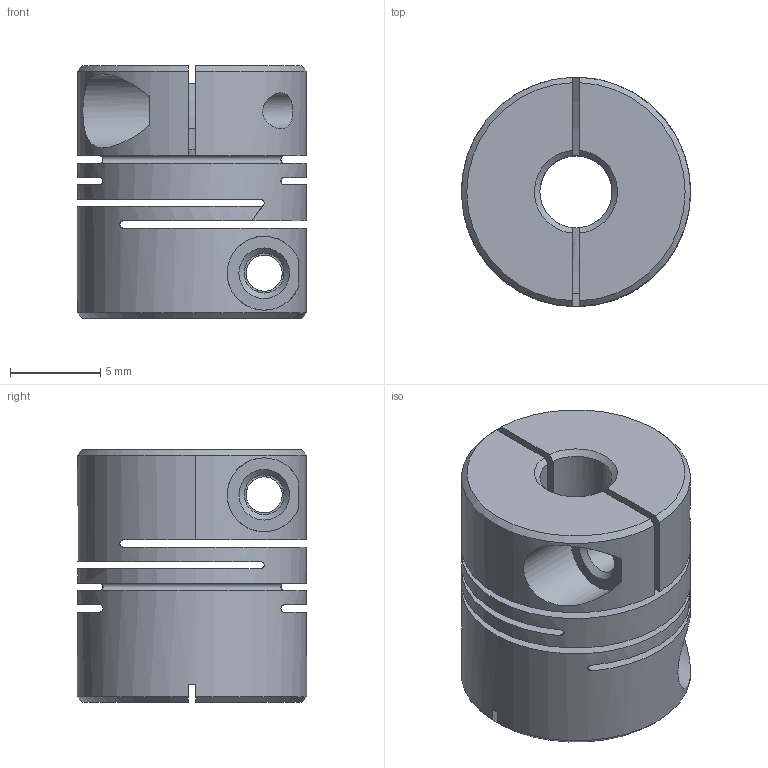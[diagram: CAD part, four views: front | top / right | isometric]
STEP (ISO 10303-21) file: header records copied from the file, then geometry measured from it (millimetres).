
FILE_DESCRIPTION( ( 'Unknown' ), '1' );
FILE_NAME( 'D:/3D/目敲傅/SRBM Type/C Type/SRBM-12C.stp', 'Unknown', ( 'Unknown' ), ( 'Unknown' ), 'XStep 1.0', 'Unknown', ' ' );
FILE_SCHEMA( ( 'CONFIG_CONTROL_DESIGN' ) );
Length unit declared in the file: millimetre
Products named in the file (1): 1
Bounding box: 12.7 x 12.7 x 14 mm (x, y, z)
Volume: 1284.6 mm3; surface area: 1854 mm2
Topology: 1 solids, 1 shells, 57 faces, 162 edges, 109 vertices
Faces by surface type: plane 24, cylinder 23, cone 10
Full cylindrical faces by diameter (mm): 2 x2, 2.2 x4, 4 x2, 5 x3, 12.7 x1
Entity records: 1966 total; most frequent: CARTESIAN_POINT 589, DIRECTION 266, ORIENTED_EDGE 260, EDGE_CURVE 130, AXIS2_PLACEMENT_3D 113, VERTEX_POINT 94, EDGE_LOOP 92, FACE_OUTER_BOUND 68
